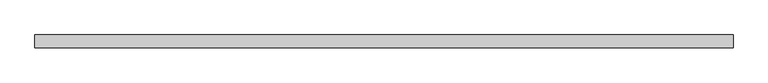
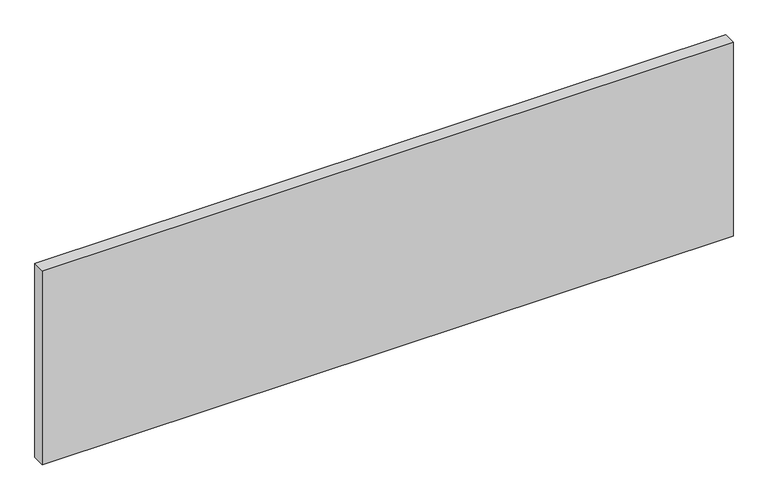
"""IFC4 building model written with IfcOpenShell, lengths in millimetres: proxy geometry, BASYS^U OFFICE 6_24x80.75 HAT WORKSURFACE-PARTS SOLID."""

from ifc_helpers import new_model, si_unit, frame, origin, place, context, project, spatial, polyline, outline, extrude, source, transform, mapped, element, save


def generic_models_5fa7eb5c(model_context):
    return source(origin(), model_context, "Body", "SweptSolid", [
        extrude(outline(polyline([(2051.05, 0.0), (0.0, 0.0), (0.0, 38.1), (2051.05, 38.1), (2051.05, 0.0)])), frame((0.0, 0.0, -609.6), z_axis=(0.0, 0.0, 1.0), x_axis=(1.0, 0.0, 0.0)), (0.0, 0.0, 1.0), 609.6),
    ])


if __name__ == "__main__":
    model = new_model("IFC4")
    model_context = context("Model", 3, world=origin())
    ifc_project = project(units=[si_unit("LENGTHUNIT", "METRE", prefix="MILLI")], contexts=[model_context])
    site = spatial("IfcSite", under=ifc_project)
    building = spatial("IfcBuilding", under=site)
    placement = place(None, origin())
    generic_models_shape = generic_models_5fa7eb5c(model_context)
    element("IfcBuildingElementProxy", 1, Name="BASYS^U OFFICE 6_24x80.75 HAT WORKSURFACE-PARTS SOLID", ObjectType="BASYS^U OFFICE 6_24x80.75 HAT WORKSURFACE-PARTS SOLID", at=placement, inside=building, context=model_context, shape_type="MappedRepresentation", body=[
        mapped(generic_models_shape, transform((0.0, 0.0, 0.0), x_axis=(1.0, 0.0, 0.0), y_axis=(0.0, 1.0, 0.0), z_axis=(0.0, 0.0, 1.0))),
    ])
    save(model, "model.ifc")
